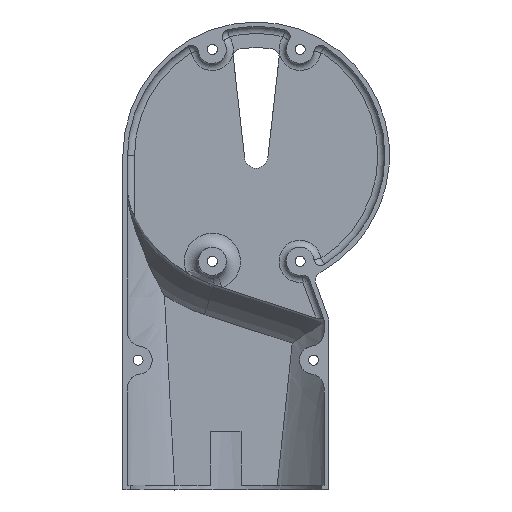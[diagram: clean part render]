
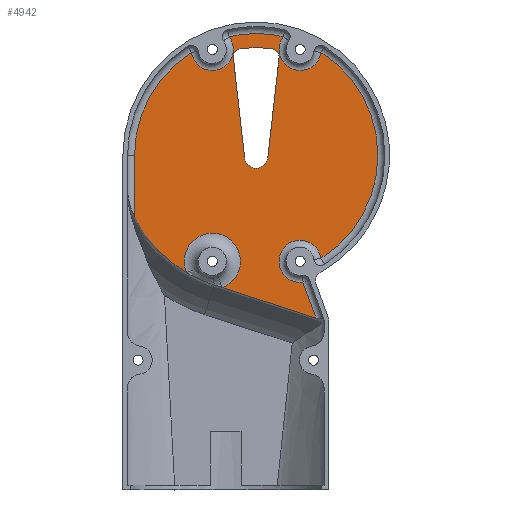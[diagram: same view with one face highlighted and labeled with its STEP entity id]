
A CAD part, front view. The second image highlights one B-rep face of the part: STEP entity #4942.
In plain terms, the highlighted planar face has unit normal (0, -1, 0).
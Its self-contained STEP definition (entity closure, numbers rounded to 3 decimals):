
#1338=CARTESIAN_POINT('',(-252.,32.75,320.225));
#1758=DIRECTION('',(-0.951,0.,0.309));
#1759=VECTOR('',#1758,42.091);
#1760=CARTESIAN_POINT('',(-174.5,32.75,276.993));
#1761=LINE('',#1760,#1759);
#1762=CARTESIAN_POINT('',(-218.751,32.75,301.23));
#1763=DIRECTION('',(0.,-1.,0.));
#1764=DIRECTION('',(0.352,0.,-0.936));
#1765=AXIS2_PLACEMENT_3D('',#1762,#1763,#1764);
#1767=CARTESIAN_POINT('',(-218.751,32.75,301.23));
#1768=DIRECTION('',(0.,-1.,0.));
#1769=DIRECTION('',(0.,0.,1.));
#1770=AXIS2_PLACEMENT_3D('',#1767,#1768,#1769);
#1772=CARTESIAN_POINT('',(-200.,32.75,346.5));
#1773=DIRECTION('',(0.,1.,0.));
#1774=DIRECTION('',(-0.51,0.,-0.86));
#1775=AXIS2_PLACEMENT_3D('',#1772,#1773,#1774);
#1777=CARTESIAN_POINT('',(-200.,32.75,346.5));
#1778=DIRECTION('',(0.,1.,0.));
#1779=DIRECTION('',(-1.,0.,0.));
#1780=AXIS2_PLACEMENT_3D('',#1777,#1778,#1779);
#1782=CARTESIAN_POINT('',(-218.751,32.75,391.77));
#1783=DIRECTION('',(0.,-1.,0.));
#1784=DIRECTION('',(-0.99,0.,-0.138));
#1785=AXIS2_PLACEMENT_3D('',#1782,#1783,#1784);
#1787=CARTESIAN_POINT('',(-218.751,32.75,391.77));
#1788=DIRECTION('',(0.,-1.,0.));
#1789=DIRECTION('',(0.,0.,-1.));
#1790=AXIS2_PLACEMENT_3D('',#1787,#1788,#1789);
#1792=CARTESIAN_POINT('',(-200.,32.75,346.5));
#1793=DIRECTION('',(0.,1.,0.));
#1794=DIRECTION('',(-0.223,0.,0.975));
#1795=AXIS2_PLACEMENT_3D('',#1792,#1793,#1794);
#1797=CARTESIAN_POINT('',(-200.,32.75,346.5));
#1798=DIRECTION('',(0.,1.,0.));
#1799=DIRECTION('',(0.,0.,1.));
#1800=AXIS2_PLACEMENT_3D('',#1797,#1798,#1799);
#1802=CARTESIAN_POINT('',(-181.249,32.75,391.77));
#1803=DIRECTION('',(0.,-1.,0.));
#1804=DIRECTION('',(-0.798,0.,0.603));
#1805=AXIS2_PLACEMENT_3D('',#1802,#1803,#1804);
#1807=CARTESIAN_POINT('',(-181.249,32.75,391.77));
#1808=DIRECTION('',(0.,-1.,0.));
#1809=DIRECTION('',(0.,0.,-1.));
#1810=AXIS2_PLACEMENT_3D('',#1807,#1808,#1809);
#1812=CARTESIAN_POINT('',(-200.,32.75,346.5));
#1813=DIRECTION('',(0.,1.,0.));
#1814=DIRECTION('',(0.532,0.,0.847));
#1815=AXIS2_PLACEMENT_3D('',#1812,#1813,#1814);
#1817=CARTESIAN_POINT('',(-181.249,32.75,301.23));
#1818=DIRECTION('',(0.,-1.,0.));
#1819=DIRECTION('',(0.99,0.,0.138));
#1820=AXIS2_PLACEMENT_3D('',#1817,#1818,#1819);
#1822=CARTESIAN_POINT('',(-181.249,32.75,301.23));
#1823=DIRECTION('',(0.,-1.,0.));
#1824=DIRECTION('',(0.,0.,1.));
#1825=AXIS2_PLACEMENT_3D('',#1822,#1823,#1824);
#1827=CARTESIAN_POINT('',(-181.249,32.75,301.23));
#1828=DIRECTION('',(0.,-1.,0.));
#1829=DIRECTION('',(-0.99,0.,-0.138));
#1830=AXIS2_PLACEMENT_3D('',#1827,#1828,#1829);
#1832=CARTESIAN_POINT('',(-181.249,32.75,301.23));
#1833=DIRECTION('',(0.,-1.,0.));
#1834=DIRECTION('',(0.,0.,-1.));
#1835=AXIS2_PLACEMENT_3D('',#1832,#1833,#1834);
#1837=DIRECTION('',(0.342,0.,-0.94));
#1838=VECTOR('',#1837,16.296);
#1839=CARTESIAN_POINT('',(-180.074,32.75,292.307));
#1840=LINE('',#1839,#1838);
#1841=CARTESIAN_POINT('',(-200.,32.75,346.));
#1842=DIRECTION('',(0.,-1.,0.));
#1843=DIRECTION('',(-0.994,0.,-0.112));
#1844=AXIS2_PLACEMENT_3D('',#1841,#1842,#1843);
#1846=CARTESIAN_POINT('',(-200.,32.75,346.));
#1847=DIRECTION('',(0.,-1.,0.));
#1848=DIRECTION('',(0.,0.,-1.));
#1849=AXIS2_PLACEMENT_3D('',#1846,#1847,#1848);
#1851=DIRECTION('',(0.112,0.,0.994));
#1852=VECTOR('',#1851,42.968);
#1853=CARTESIAN_POINT('',(-195.031,32.75,345.442));
#1854=LINE('',#1853,#1852);
#1855=CARTESIAN_POINT('',(-193.718,32.75,388.533));
#1856=DIRECTION('',(0.,-1.,0.));
#1857=DIRECTION('',(0.994,0.,-0.112));
#1858=AXIS2_PLACEMENT_3D('',#1855,#1856,#1857);
#1860=CARTESIAN_POINT('',(-200.,32.75,346.5));
#1861=DIRECTION('',(0.,-1.,0.));
#1862=DIRECTION('',(0.148,0.,0.989));
#1863=AXIS2_PLACEMENT_3D('',#1860,#1861,#1862);
#1865=CARTESIAN_POINT('',(-200.,32.75,346.5));
#1866=DIRECTION('',(0.,-1.,0.));
#1867=DIRECTION('',(0.,0.,1.));
#1868=AXIS2_PLACEMENT_3D('',#1865,#1866,#1867);
#1870=CARTESIAN_POINT('',(-206.282,32.75,388.533));
#1871=DIRECTION('',(0.,-1.,0.));
#1872=DIRECTION('',(-0.149,0.,0.989));
#1873=AXIS2_PLACEMENT_3D('',#1870,#1871,#1872);
#1875=DIRECTION('',(0.112,0.,-0.994));
#1876=VECTOR('',#1875,42.968);
#1877=CARTESIAN_POINT('',(-209.76,32.75,388.143));
#1878=LINE('',#1877,#1876);
#1879=DIRECTION('',(0.,0.,-1.));
#1880=VECTOR('',#1879,26.275);
#1881=CARTESIAN_POINT('',(-252.,32.75,346.5));
#1882=LINE('',#1881,#1880);
#2681=CARTESIAN_POINT('',(-190.24,32.75,388.143));
#2682=VERTEX_POINT('',#2681);
#2683=CARTESIAN_POINT('',(-195.031,32.75,345.442));
#2684=VERTEX_POINT('',#2683);
#2712=CARTESIAN_POINT('',(-204.969,32.75,345.442));
#2713=VERTEX_POINT('',#2712);
#2714=CARTESIAN_POINT('',(-209.76,32.75,388.143));
#2715=VERTEX_POINT('',#2714);
#2968=CARTESIAN_POINT('',(-214.533,32.75,289.996));
#2970=VERTEX_POINT('',#2968);
#2971=CARTESIAN_POINT('',(-174.5,32.75,276.993));
#2972=VERTEX_POINT('',#2971);
#2982=CARTESIAN_POINT('',(-229.736,32.75,296.399));
#2983=VERTEX_POINT('',#2982);
#2984=CARTESIAN_POINT('',(-218.751,32.75,313.23));
#2985=VERTEX_POINT('',#2984);
#3001=VERTEX_POINT('',#1338);
#3050=CARTESIAN_POINT('',(-180.074,32.75,292.307));
#3051=VERTEX_POINT('',#3050);
#3052=CARTESIAN_POINT('',(-172.334,32.75,302.47));
#3053=VERTEX_POINT('',#3052);
#3054=CARTESIAN_POINT('',(-181.249,32.75,310.23));
#3055=VERTEX_POINT('',#3054);
#3056=CARTESIAN_POINT('',(-190.163,32.75,299.99));
#3057=VERTEX_POINT('',#3056);
#3058=CARTESIAN_POINT('',(-181.249,32.75,292.23));
#3059=VERTEX_POINT('',#3058);
#3060=CARTESIAN_POINT('',(-172.334,32.75,390.53));
#3061=VERTEX_POINT('',#3060);
#3062=CARTESIAN_POINT('',(-188.429,32.75,397.196));
#3063=VERTEX_POINT('',#3062);
#3064=CARTESIAN_POINT('',(-181.249,32.75,382.77));
#3065=VERTEX_POINT('',#3064);
#3066=CARTESIAN_POINT('',(-211.571,32.75,397.196));
#3067=VERTEX_POINT('',#3066);
#3068=CARTESIAN_POINT('',(-200.,32.75,398.5));
#3069=VERTEX_POINT('',#3068);
#3070=CARTESIAN_POINT('',(-227.666,32.75,390.53));
#3071=VERTEX_POINT('',#3070);
#3072=CARTESIAN_POINT('',(-218.751,32.75,382.77));
#3073=VERTEX_POINT('',#3072);
#3074=CARTESIAN_POINT('',(-252.,32.75,346.5));
#3075=VERTEX_POINT('',#3074);
#3076=CARTESIAN_POINT('',(-200.,32.75,341.));
#3077=VERTEX_POINT('',#3076);
#3078=CARTESIAN_POINT('',(-193.197,32.75,391.994));
#3079=VERTEX_POINT('',#3078);
#3080=CARTESIAN_POINT('',(-200.,32.75,392.5));
#3081=VERTEX_POINT('',#3080);
#3082=CARTESIAN_POINT('',(-206.803,32.75,391.994));
#3083=VERTEX_POINT('',#3082);
#4900=CARTESIAN_POINT('',(0.,32.75,346.5));
#4901=DIRECTION('',(0.,-1.,0.));
#4902=DIRECTION('',(-1.,0.,0.));
#4903=AXIS2_PLACEMENT_3D('',#4900,#4901,#4902);
#4904=PLANE('',#4903);
#4905=ORIENTED_EDGE('',*,*,#4058,.T.);
#4906=ORIENTED_EDGE('',*,*,#4119,.T.);
#4907=ORIENTED_EDGE('',*,*,#4117,.T.);
#4908=ORIENTED_EDGE('',*,*,#4351,.T.);
#4910=ORIENTED_EDGE('',*,*,#4909,.F.);
#4911=ORIENTED_EDGE('',*,*,#4892,.T.);
#4912=ORIENTED_EDGE('',*,*,#4868,.T.);
#4913=ORIENTED_EDGE('',*,*,#4866,.T.);
#4914=ORIENTED_EDGE('',*,*,#4839,.T.);
#4915=ORIENTED_EDGE('',*,*,#4837,.T.);
#4916=ORIENTED_EDGE('',*,*,#4810,.T.);
#4917=ORIENTED_EDGE('',*,*,#4808,.T.);
#4918=ORIENTED_EDGE('',*,*,#4780,.T.);
#4919=ORIENTED_EDGE('',*,*,#4753,.T.);
#4920=ORIENTED_EDGE('',*,*,#4751,.T.);
#4921=ORIENTED_EDGE('',*,*,#4749,.T.);
#4922=ORIENTED_EDGE('',*,*,#4747,.T.);
#4923=ORIENTED_EDGE('',*,*,#4718,.T.);
#4924=EDGE_LOOP('',(#4905,#4906,#4907,#4908,#4910,#4911,#4912,#4913,#4914,#4915,
#4916,#4917,#4918,#4919,#4920,#4921,#4922,#4923));
#4925=FACE_OUTER_BOUND('',#4924,.F.);
#4927=ORIENTED_EDGE('',*,*,#4926,.T.);
#4929=ORIENTED_EDGE('',*,*,#4928,.T.);
#4930=ORIENTED_EDGE('',*,*,#3236,.T.);
#4932=ORIENTED_EDGE('',*,*,#4931,.T.);
#4934=ORIENTED_EDGE('',*,*,#4933,.T.);
#4936=ORIENTED_EDGE('',*,*,#4935,.T.);
#4938=ORIENTED_EDGE('',*,*,#4937,.T.);
#4939=ORIENTED_EDGE('',*,*,#3321,.T.);
#4940=EDGE_LOOP('',(#4927,#4929,#4930,#4932,#4934,#4936,#4938,#4939));
#4941=FACE_BOUND('',#4940,.F.);
#4942=ADVANCED_FACE('',(#4925,#4941),#4904,.T.);
#1766=CIRCLE('',#1765,12.);
#1771=CIRCLE('',#1770,12.);
#1776=CIRCLE('',#1775,58.261);
#1781=CIRCLE('',#1780,52.);
#1786=CIRCLE('',#1785,9.);
#1791=CIRCLE('',#1790,9.);
#1796=CIRCLE('',#1795,52.);
#1801=CIRCLE('',#1800,52.);
#1806=CIRCLE('',#1805,9.);
#1811=CIRCLE('',#1810,9.);
#1816=CIRCLE('',#1815,52.);
#1821=CIRCLE('',#1820,9.);
#1826=CIRCLE('',#1825,9.);
#1831=CIRCLE('',#1830,9.);
#1836=CIRCLE('',#1835,9.);
#1845=CIRCLE('',#1844,5.);
#1850=CIRCLE('',#1849,5.);
#1859=CIRCLE('',#1858,3.5);
#1864=CIRCLE('',#1863,46.);
#1869=CIRCLE('',#1868,46.);
#1874=CIRCLE('',#1873,3.5);
#3236=EDGE_CURVE('',#2684,#2682,#1854,.T.);
#3321=EDGE_CURVE('',#2715,#2713,#1878,.T.);
#4058=EDGE_CURVE('',#2972,#2970,#1761,.T.);
#4117=EDGE_CURVE('',#2985,#2983,#1771,.T.);
#4119=EDGE_CURVE('',#2970,#2985,#1766,.T.);
#4351=EDGE_CURVE('',#2983,#3001,#1776,.T.);
#4718=EDGE_CURVE('',#3051,#2972,#1840,.T.);
#4747=EDGE_CURVE('',#3059,#3051,#1836,.T.);
#4749=EDGE_CURVE('',#3057,#3059,#1831,.T.);
#4751=EDGE_CURVE('',#3055,#3057,#1826,.T.);
#4753=EDGE_CURVE('',#3053,#3055,#1821,.T.);
#4780=EDGE_CURVE('',#3061,#3053,#1816,.T.);
#4808=EDGE_CURVE('',#3065,#3061,#1811,.T.);
#4810=EDGE_CURVE('',#3063,#3065,#1806,.T.);
#4837=EDGE_CURVE('',#3069,#3063,#1801,.T.);
#4839=EDGE_CURVE('',#3067,#3069,#1796,.T.);
#4866=EDGE_CURVE('',#3073,#3067,#1791,.T.);
#4868=EDGE_CURVE('',#3071,#3073,#1786,.T.);
#4892=EDGE_CURVE('',#3075,#3071,#1781,.T.);
#4909=EDGE_CURVE('',#3075,#3001,#1882,.T.);
#4926=EDGE_CURVE('',#2713,#3077,#1845,.T.);
#4928=EDGE_CURVE('',#3077,#2684,#1850,.T.);
#4931=EDGE_CURVE('',#2682,#3079,#1859,.T.);
#4933=EDGE_CURVE('',#3079,#3081,#1864,.T.);
#4935=EDGE_CURVE('',#3081,#3083,#1869,.T.);
#4937=EDGE_CURVE('',#3083,#2715,#1874,.T.);
